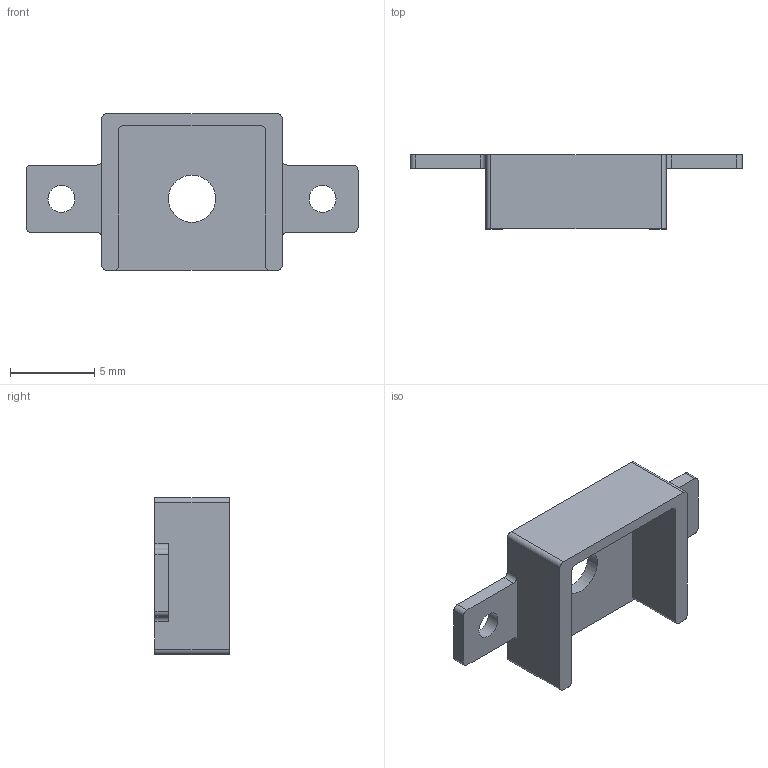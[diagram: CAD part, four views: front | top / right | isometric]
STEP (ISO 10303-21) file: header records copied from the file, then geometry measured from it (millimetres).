
FILE_DESCRIPTION(('Open CASCADE Model'),'2;1');
FILE_NAME('Open CASCADE Shape Model','2026-11-01T16:33:55',('Author'),( 'Open CASCADE'),'Open CASCADE STEP processor 8.0','build123d', 'Unknown');
FILE_SCHEMA(('AUTOMOTIVE_DESIGN { 1 0 10303 214 1 1 1 1 }'));
Length unit declared in the file: millimetre
Products named in the file (1): SOLID
Bounding box: 19.7 x 4.4 x 9.3 mm (x, y, z)
Volume: 188.8 mm3; surface area: 513 mm2
Topology: 1 solids, 1 shells, 37 faces, 111 edges, 76 vertices
Faces by surface type: cylinder 19, plane 18
Full cylindrical faces by diameter (mm): 1.6 x2, 2.8 x1
Entity records: 2767 total; most frequent: CARTESIAN_POINT 542, DIRECTION 422, LINE 246, VECTOR 246, ORIENTED_EDGE 222, PCURVE 222, DEFINITIONAL_REPRESENTATION 222, EDGE_CURVE 111
